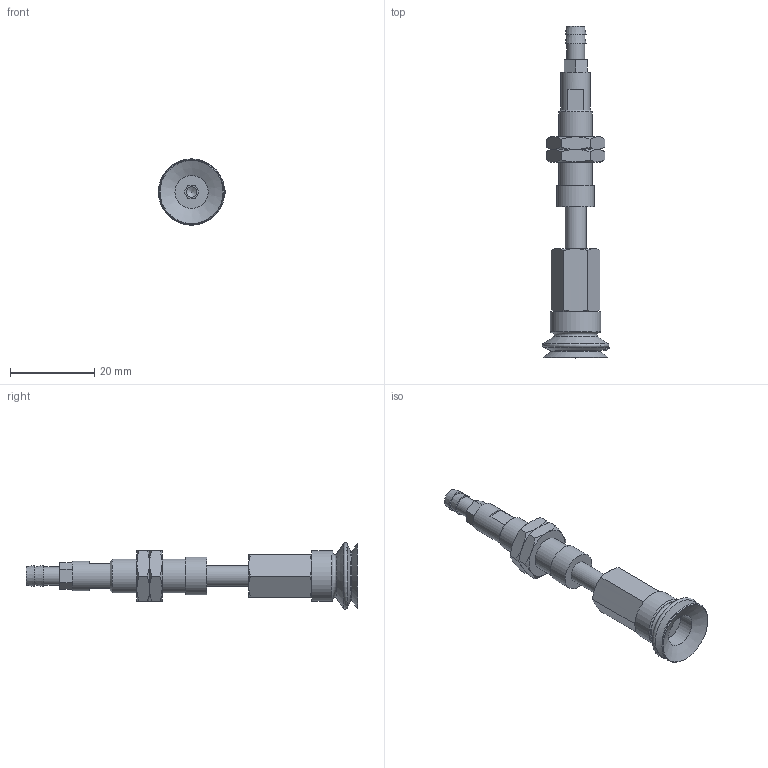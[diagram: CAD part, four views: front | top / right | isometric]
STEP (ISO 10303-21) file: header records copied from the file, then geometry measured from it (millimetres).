
FILE_DESCRIPTION(('STEP AP203'),'1');
FILE_NAME('-T.stp','2025-08-27T07:36:30',(' '),(' '),'Spatial InterOp 3D',' ',' ');
FILE_SCHEMA(('CONFIG_CONTROL_DESIGN'));
Length unit declared in the file: millimetre
Products named in the file (8): BNABPJTS-15-10-※-T; ADAPTER; NAPCTS-10-10-MBODY; Adapter-15-NAPJ; NUT-NAPJ-15-10-s; NAPJTS-15-10-FBODY; BPJG-15-※; T
Assembly tree (8 placements, depth 2):
  BNABPJTS-15-10-※-T
    ADAPTER
    NAPCTS-10-10-MBODY
    Adapter-15-NAPJ
    NUT-NAPJ-15-10-s  x2
    NAPJTS-15-10-FBODY
    BPJG-15-※
    T
Bounding box: 15.99 x 79 x 15.79 mm (x, y, z)
Volume: 4564.3 mm3; surface area: 5192.8 mm2
Topology: 8 solids, 8 shells, 155 faces, 325 edges, 194 vertices
Faces by surface type: plane 62, cone 56, cylinder 18, torus 9, bspline 6, sphere 4
Full cylindrical faces by diameter (mm): 2.5 x1, 3 x1, 4.134 x2, 4.3 x1, 4.6 x1, 5 x4, 7 x1, 7.188 x2, 7.9 x1, 8 x2, 9 x1, 12 x1
Entity records: 4088 total; most frequent: CARTESIAN_POINT 1131, DIRECTION 544, ORIENTED_EDGE 452, AXIS2_PLACEMENT_3D 239, EDGE_CURVE 226, EDGE_LOOP 191, VERTEX_POINT 158, FACE_OUTER_BOUND 156
